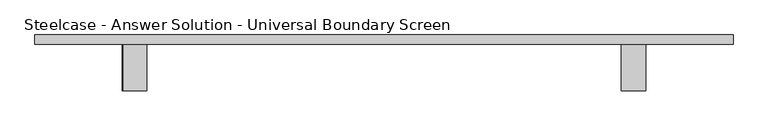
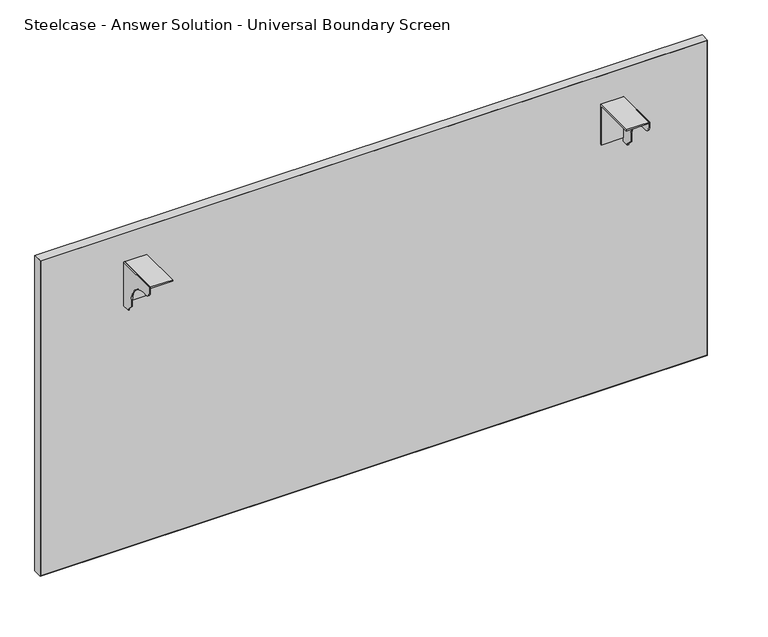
"""IFC4 building model written with IfcOpenShell, lengths in millimetres: furniture geometry, Steelcase - Answer Solution - Universal Boundary Screen : 30H x 60W."""

import ifcopenshell
import ifcopenshell.guid

model = None  # the IFC model being written
_history = None  # IfcOwnerHistory: only IFC2X3 demands one
_inside = {}  # id of a spatial element -> (the spatial element, [elements in it])
_under = {}  # id of a project, library or spatial element -> (it, [spatial elements below it])
_declared = {}  # id of a project -> (the project, [libraries it declares])
_typed = {}  # id of a type object -> (the type object, [elements of that type])
_made_of = {}  # id of a material, layer set ... -> (it, [elements and type objects made of it])


def new_model(schema):
    """Start an empty IFC model of exactly this schema.

    Asked for "IFC4X3", IfcOpenShell would pick the latest addendum, in which some entities
    have other attributes; the version numbers below select the first issue.
    IFC2X3 requires an IfcOwnerHistory on every rooted entity: one is made here for all.
    """
    global model, _history
    if schema == "IFC4X3":
        model = ifcopenshell.file(schema_version=(4, 3, 0, 0))
    else:
        model = ifcopenshell.file(schema=schema)
    _inside.clear()
    _under.clear()
    _declared.clear()
    _typed.clear()
    _made_of.clear()
    _history = None
    if model.schema == "IFC2X3":
        org = make("IfcOrganization", Name="unknown")
        user = make(
            "IfcPersonAndOrganization",
            ThePerson=make("IfcPerson", FamilyName="unknown"),
            TheOrganization=org,
        )
        app = make(
            "IfcApplication",
            ApplicationDeveloper=org,
            Version="unknown",
            ApplicationFullName="unknown",
            ApplicationIdentifier="unknown",
        )
        _history = make(
            "IfcOwnerHistory",
            OwningUser=user,
            OwningApplication=app,
            ChangeAction="ADDED",
            CreationDate=0,
        )
    return model


def make(cls, **values):
    """One entity of the class cls with the attributes given. An attribute that is None is left unset."""
    return model.create_entity(
        cls, **{name: value for name, value in values.items() if value is not None}
    )


def rooted(cls, **values):
    """An entity with a GlobalId (a new one), such as an element, a storey or a relation."""
    return make(cls, GlobalId=ifcopenshell.guid.new(), OwnerHistory=_history, **values)


def si_unit(unit_type, name, prefix=None):
    """IfcSIUnit, for example si_unit("LENGTHUNIT", "METRE", prefix="MILLI")."""
    return make("IfcSIUnit", UnitType=unit_type, Prefix=prefix, Name=name)


def assignment(units):
    """IfcUnitAssignment: the units of a project."""
    return None if units is None else make("IfcUnitAssignment", Units=units)


def point(xyz):
    """IfcCartesianPoint."""
    return None if xyz is None else make("IfcCartesianPoint", Coordinates=xyz)


def direction(xyz):
    """IfcDirection."""
    return None if xyz is None else make("IfcDirection", DirectionRatios=xyz)


def frame(location, z_axis=None, x_axis=None):
    """IfcAxis2Placement3D, a coordinate frame: its origin and axes. An axis left out is left unset."""
    return make(
        "IfcAxis2Placement3D",
        Location=point(location),
        Axis=direction(z_axis),
        RefDirection=direction(x_axis),
    )


def frame_2d(location, x_axis=None):
    """IfcAxis2Placement2D, a coordinate frame in the plane: its origin and x axis."""
    return make(
        "IfcAxis2Placement2D", Location=point(location), RefDirection=direction(x_axis)
    )


def origin():
    """The frame at (0, 0, 0) with its axes left unset."""
    return frame((0.0, 0.0, 0.0))


def place(relative_to, where):
    """IfcLocalPlacement: puts the frame where relative to a parent placement (None: the world)."""
    return make(
        "IfcLocalPlacement", PlacementRelTo=relative_to, RelativePlacement=where
    )


def context(
    kind, dimensions, precision=None, world=None, true_north=None, identifier=None
):
    """IfcGeometricRepresentationContext, for example the 3D "Model" context."""
    return make(
        "IfcGeometricRepresentationContext",
        ContextIdentifier=identifier,
        ContextType=kind,
        CoordinateSpaceDimension=dimensions,
        Precision=precision,
        WorldCoordinateSystem=world,
        TrueNorth=true_north,
    )


def project(units=None, contexts=None):
    """IfcProject with its units and contexts."""
    return rooted(
        "IfcProject",
        Name="project",
        RepresentationContexts=contexts,
        UnitsInContext=assignment(units),
    )


def spatial(cls, under=None, at=None, **own):
    """A site, building, storey or space (cls), placed at a placement, below another one or the project."""
    s = rooted(cls, ObjectPlacement=at, **own)
    if under is not None:
        _under.setdefault(under.id(), (under, []))[1].append(s)
    return s


def polyline(points):
    """IfcPolyline through the points."""
    return make("IfcPolyline", Points=[point(p) for p in points])


def circle_curve(where, radius):
    """IfcCircle in the frame where."""
    return make("IfcCircle", Position=where, Radius=radius)


def trimmed(basis, trim1, trim2, sense, master):
    """IfcTrimmedCurve: the piece of a basis curve between two trims."""
    return make(
        "IfcTrimmedCurve",
        BasisCurve=basis,
        Trim1=trim1,
        Trim2=trim2,
        SenseAgreement=sense,
        MasterRepresentation=master,
    )


def segment(curve, same_sense, transition):
    """IfcCompositeCurveSegment."""
    return make(
        "IfcCompositeCurveSegment",
        Transition=transition,
        SameSense=same_sense,
        ParentCurve=curve,
    )


def composite_curve(segments, self_intersect=None):
    """IfcCompositeCurve: segments joined end to end."""
    return make("IfcCompositeCurve", Segments=segments, SelfIntersect=self_intersect)


def outline(outer, holes=None, kind="AREA"):
    """IfcArbitraryClosedProfileDef: a profile drawn as a closed curve; with holes, ...WithVoids."""
    if holes is None:
        return make("IfcArbitraryClosedProfileDef", ProfileType=kind, OuterCurve=outer)
    return make(
        "IfcArbitraryProfileDefWithVoids",
        ProfileType=kind,
        OuterCurve=outer,
        InnerCurves=holes,
    )


def extrude(swept, where, along, depth):
    """IfcExtrudedAreaSolid: the profile swept, set in the frame where, extruded along a direction by depth."""
    return make(
        "IfcExtrudedAreaSolid",
        SweptArea=swept,
        Position=where,
        ExtrudedDirection=direction(along),
        Depth=depth,
    )


def shape(context_of_items, identifier, shape_type, items):
    """IfcShapeRepresentation: the items that make up one representation, for example the "Body"."""
    return make(
        "IfcShapeRepresentation",
        ContextOfItems=context_of_items,
        RepresentationIdentifier=identifier,
        RepresentationType=shape_type,
        Items=items,
    )


def source(mapping_origin, context_of_items, identifier, shape_type, items):
    """IfcRepresentationMap: a shape defined once, which mapped items show again and again."""
    return make(
        "IfcRepresentationMap",
        MappingOrigin=mapping_origin,
        MappedRepresentation=shape(context_of_items, identifier, shape_type, items),
    )


def transform(
    local_origin,
    x_axis=None,
    y_axis=None,
    z_axis=None,
    scale=None,
    scale2=None,
    scale3=None,
    uniform=True,
):
    """IfcCartesianTransformationOperator3D, or its non-uniform kind. x_axis, y_axis, z_axis: its Axis1, 2, 3."""
    if uniform:
        return make(
            "IfcCartesianTransformationOperator3D",
            Axis1=direction(x_axis),
            Axis2=direction(y_axis),
            LocalOrigin=point(local_origin),
            Scale=scale,
            Axis3=direction(z_axis),
        )
    return make(
        "IfcCartesianTransformationOperator3DnonUniform",
        Axis1=direction(x_axis),
        Axis2=direction(y_axis),
        LocalOrigin=point(local_origin),
        Scale=scale,
        Axis3=direction(z_axis),
        Scale2=scale2,
        Scale3=scale3,
    )


def mapped(mapping_source, mapping_target):
    """IfcMappedItem: shows the shape of a source again, moved by a transform."""
    return make(
        "IfcMappedItem", MappingSource=mapping_source, MappingTarget=mapping_target
    )


def made_of(thing, what):
    """Note that an element or type object is made of a material, layer set ...; save() writes the relation."""
    if what is not None:
        _made_of.setdefault(what.id(), (what, []))[1].append(thing)
    return thing


def element(
    cls,
    number,
    at=None,
    inside=None,
    cuts=None,
    type_object=None,
    material=None,
    context=None,
    identifier="Body",
    shape_type=None,
    held_by="IfcProductDefinitionShape",
    body=None,
    shapes=None,
    **own,
):
    """One element of the class cls, such as IfcWall. Its Tag is "e" and its number.

    at: its placement. inside: the storey or other place that contains it. cuts: it is an
    opening in that element (IfcRelVoidsElement). A single representation is given by context,
    identifier, shape_type and body (its items); several are given by shapes. held_by: the class
    of the entity that holds the representations. save() writes the other relations.
    """
    e = rooted(cls, Tag="e%d" % number, ObjectPlacement=at, **own)
    if body is not None:
        shapes = [shape(context, identifier, shape_type, body)]
    if shapes is not None:
        e.Representation = make(held_by, Representations=shapes)
    if inside is not None:
        _inside.setdefault(inside.id(), (inside, []))[1].append(e)
    if cuts is not None:
        rooted(
            "IfcRelVoidsElement", RelatingBuildingElement=cuts, RelatedOpeningElement=e
        )
    if type_object is not None:
        _typed.setdefault(type_object.id(), (type_object, []))[1].append(e)
    return made_of(e, material)


def aggregate(whole, parts):
    """IfcRelAggregates: a whole, such as a stair, and the parts it consists of."""
    return rooted("IfcRelAggregates", RelatingObject=whole, RelatedObjects=parts)


def save(model, path):
    """Write the relations noted so far, then the file.

    IfcRelAggregates (storeys below a building ...), IfcRelContainedInSpatialStructure (elements
    in a storey), IfcRelDefinesByType, IfcRelAssociatesMaterial and IfcRelDeclares: one each for
    every whole, place, type object, material and project.
    """
    for whole, parts in _under.values():
        aggregate(whole, parts)
    for where, things in _inside.values():
        rooted(
            "IfcRelContainedInSpatialStructure",
            RelatedElements=things,
            RelatingStructure=where,
        )
    for kind, things in _typed.values():
        rooted("IfcRelDefinesByType", RelatedObjects=things, RelatingType=kind)
    for what, things in _made_of.values():
        rooted("IfcRelAssociatesMaterial", RelatedObjects=things, RelatingMaterial=what)
    for by, libraries in _declared.values():
        rooted("IfcRelDeclares", RelatingContext=by, RelatedDefinitions=libraries)
    model.write(path)


def steelcase_answer_solution_universal_boundary_screen_e301b258(model_context):
    return source(origin(), model_context, "Body", "SweptSolid", [
        extrude(outline(polyline([(-103.1670434, 689.3558876), (-103.1670434, 692.1499758), (-1.5668826, 692.1499758), (-1.5668826, 595.5029317), (-4.1079736, 595.5029317), (-4.1079736, 689.3558876), (-103.1670434, 689.3558876)])), frame((1048.2336711, 0.0, 0.0), z_axis=(1.0, 0.0, 0.0), x_axis=(0.0, 1.0, 0.0)), (0.0, 0.0, 1.0), 53.3444116),
        extrude(outline(composite_curve([segment(polyline([(-103.1670434, 679.2814802), (-103.1670434, 692.1499758), (-1.5668826, 692.1499758), (-1.5668826, 586.9634093), (-19.8232934, 586.9634093), (-19.8232934, 589.7574248), (-32.0458032, 601.9799346), (-32.0458032, 615.7814802)]), True, "CONTINUOUS"), segment(trimmed(circle_curve(frame_2d((-82.8458032, 615.7814802)), 50.8), [point((-32.0458032, 615.7814802))], [point((-82.8458032, 666.5814802))], True, "CARTESIAN"), True, "CONTINUOUS"), segment(polyline([(-82.8458032, 666.5814802), (-90.4670434, 666.5814802)]), True, "CONTINUOUS"), segment(trimmed(circle_curve(frame_2d((-90.4670434, 679.2814802)), 12.7), [point((-90.4670434, 666.5814802))], [point((-103.1670434, 679.2814802))], False, "CARTESIAN"), True, "CONTINUOUS")], self_intersect=False)), frame((1099.0328959, 0.0, 0.0), z_axis=(1.0, 0.0, 0.0), x_axis=(0.0, 1.0, 0.0)), (0.0, 0.0, 1.0), 2.5451868),
        extrude(outline(polyline([(-103.1670434, 689.3558876), (-103.1670434, 692.1499758), (-1.5668826, 692.1499758), (-1.5668826, 595.5029317), (-4.1079736, 595.5029317), (-4.1079736, 689.3558876), (-103.1670434, 689.3558876)])), frame((-38.8767306, 0.0, 0.0), z_axis=(1.0, 0.0, 0.0), x_axis=(0.0, 1.0, 0.0)), (0.0, 0.0, 1.0), 50.7992249),
        extrude(outline(composite_curve([segment(polyline([(-103.1670434, 679.2814802), (-103.1670434, 692.1499758), (-1.5668826, 692.1499758), (-1.5668826, 586.9634093), (-19.8232934, 586.9634093), (-19.8232934, 589.7574248), (-32.0458032, 601.9799346), (-32.0458032, 615.7814802)]), True, "CONTINUOUS"), segment(trimmed(circle_curve(frame_2d((-82.8458032, 615.7814802)), 50.8), [point((-32.0458032, 615.7814802))], [point((-82.8458032, 666.5814802))], True, "CARTESIAN"), True, "CONTINUOUS"), segment(polyline([(-82.8458032, 666.5814802), (-90.4670434, 666.5814802)]), True, "CONTINUOUS"), segment(trimmed(circle_curve(frame_2d((-90.4670434, 679.2814802)), 12.7), [point((-90.4670434, 666.5814802))], [point((-103.1670434, 679.2814802))], False, "CARTESIAN"), True, "CONTINUOUS")], self_intersect=False)), frame((-41.4219173, 0.0, 0.0), z_axis=(1.0, 0.0, 0.0), x_axis=(0.0, 1.0, 0.0)), (0.0, 0.0, 1.0), 2.5451868),
        extrude(outline(polyline([(-230.9293422, 18.9055112), (1291.0855076, 18.9055112), (1291.0855076, -1.5668826), (-230.9293422, -1.5668826), (-230.9293422, 18.9055112)])), frame((0.0, 0.0, 1.016), z_axis=(0.0, 0.0, 1.0), x_axis=(1.0, 0.0, 0.0)), (0.0, 0.0, 1.0), 759.9914249),
        extrude(outline(polyline([(762.0, 1292.0780827), (762.0, -231.9219173), (0.0, -231.9219173), (0.0, 1292.0780827), (762.0, 1292.0780827)]), holes=[polyline([(761.0074249, 1291.0855076), (1.016, 1291.0855076), (1.016, -230.9293422), (761.0074249, -230.9293422), (761.0074249, 1291.0855076)])]), frame((0.0, -1.5668826, 0.0), z_axis=(0.0, 1.0, 0.0), x_axis=(0.0, 0.0, 1.0)), (0.0, 0.0, 1.0), 20.4723938),
    ])


if __name__ == "__main__":
    model = new_model("IFC4")
    model_context = context("Model", 3, world=origin())
    ifc_project = project(units=[si_unit("LENGTHUNIT", "METRE", prefix="MILLI")], contexts=[model_context])
    site = spatial("IfcSite", under=ifc_project)
    building = spatial("IfcBuilding", under=site)
    placement = place(None, origin())
    steelcase_answer_solution_universal_boundary_screen_shape = steelcase_answer_solution_universal_boundary_screen_e301b258(model_context)
    element("IfcFurniture", 1, ObjectType="Steelcase - Answer Solution - Universal Boundary Screen : 30H x 60W", at=placement, inside=building, context=model_context, shape_type="MappedRepresentation", body=[
        mapped(steelcase_answer_solution_universal_boundary_screen_shape, transform((0.0, 0.0, 0.0), x_axis=(1.0, 0.0, 0.0), y_axis=(0.0, 1.0, 0.0), z_axis=(0.0, 0.0, 1.0))),
    ])
    save(model, "model.ifc")
